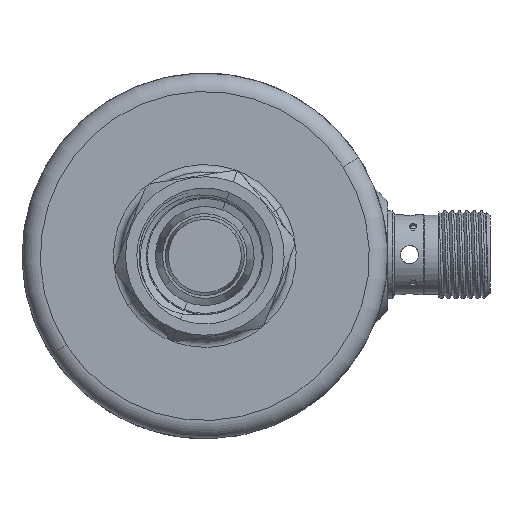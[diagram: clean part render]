
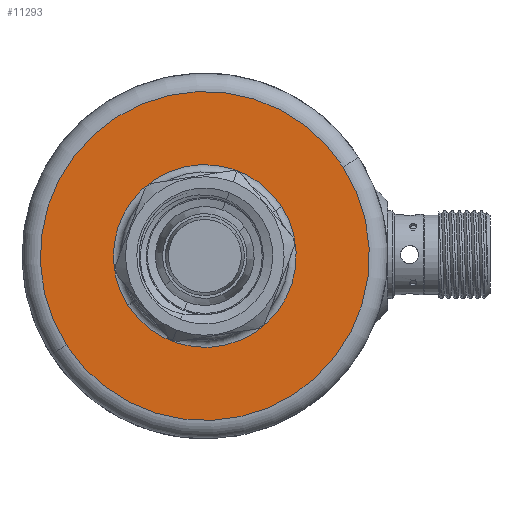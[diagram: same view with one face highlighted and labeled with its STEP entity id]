
A CAD part, front view. The second image highlights one B-rep face of the part: STEP entity #11293.
In plain terms, the highlighted planar face has unit normal (0, -1, 0) as drawn and (0, 0, -1) by its records, which use the part's own axes.
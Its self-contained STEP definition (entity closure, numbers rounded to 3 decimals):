
#196 = EDGE_LOOP ( 'NONE', ( #15688, #9535 ) ) ;
#1135 = DIRECTION ( 'NONE',  ( 0., 0., -1. ) ) ;
#1191 = DIRECTION ( 'NONE',  ( 0., 0., 1. ) ) ;
#1532 = DIRECTION ( 'NONE',  ( 1., 0., 0. ) ) ;
#1553 = VERTEX_POINT ( 'NONE', #13229 ) ;
#2788 = VERTEX_POINT ( 'NONE', #12636 ) ;
#3043 = CARTESIAN_POINT ( 'NONE',  ( -12.5, 0., 45.5 ) ) ;
#4055 = PLANE ( 'NONE',  #12773 ) ;
#4064 = AXIS2_PLACEMENT_3D ( 'NONE', #13502, #1191, #12160 ) ;
#4883 = EDGE_CURVE ( 'NONE', #2788, #1553, #14419, .T. ) ;
#5397 = FACE_OUTER_BOUND ( 'NONE', #196, .T. ) ;
#5885 = CIRCLE ( 'NONE', #8206, 12.5 ) ;
#6242 = VERTEX_POINT ( 'NONE', #10965 ) ;
#6570 = EDGE_LOOP ( 'NONE', ( #16739, #16388 ) ) ;
#6634 = DIRECTION ( 'NONE',  ( 1., 0., 0. ) ) ;
#6874 = EDGE_CURVE ( 'NONE', #6242, #15021, #5885, .T. ) ;
#8206 = AXIS2_PLACEMENT_3D ( 'NONE', #12680, #15542, #13040 ) ;
#8461 = DIRECTION ( 'NONE',  ( 0., 0., 1. ) ) ;
#8831 = CIRCLE ( 'NONE', #9381, 22.5 ) ;
#9355 = CARTESIAN_POINT ( 'NONE',  ( 0., 0., 45.5 ) ) ;
#9381 = AXIS2_PLACEMENT_3D ( 'NONE', #9355, #13486, #14823 ) ;
#9535 = ORIENTED_EDGE ( 'NONE', *, *, #4883, .T. ) ;
#10056 = EDGE_CURVE ( 'NONE', #1553, #2788, #8831, .T. ) ;
#10965 = CARTESIAN_POINT ( 'NONE',  ( 12.5, 0., 45.5 ) ) ;
#11293 = ADVANCED_FACE ( 'NONE', ( #11874, #5397 ), #4055, .F. ) ;
#11874 = FACE_BOUND ( 'NONE', #6570, .T. ) ;
#12021 = CARTESIAN_POINT ( 'NONE',  ( 0., 0., 45.5 ) ) ;
#12160 = DIRECTION ( 'NONE',  ( 1., 0., 0. ) ) ;
#12636 = CARTESIAN_POINT ( 'NONE',  ( -22.5, 0., 45.5 ) ) ;
#12680 = CARTESIAN_POINT ( 'NONE',  ( 0., 0., 45.5 ) ) ;
#12773 = AXIS2_PLACEMENT_3D ( 'NONE', #14997, #8461, #1532 ) ;
#13040 = DIRECTION ( 'NONE',  ( 1., 0., 0. ) ) ;
#13229 = CARTESIAN_POINT ( 'NONE',  ( 22.5, 0., 45.5 ) ) ;
#13486 = DIRECTION ( 'NONE',  ( 0., 0., -1. ) ) ;
#13502 = CARTESIAN_POINT ( 'NONE',  ( 0., 0., 45.5 ) ) ;
#14419 = CIRCLE ( 'NONE', #15276, 22.5 ) ;
#14823 = DIRECTION ( 'NONE',  ( 1., 0., 0. ) ) ;
#14997 = CARTESIAN_POINT ( 'NONE',  ( 0., 0., 45.5 ) ) ;
#15021 = VERTEX_POINT ( 'NONE', #3043 ) ;
#15276 = AXIS2_PLACEMENT_3D ( 'NONE', #12021, #1135, #6634 ) ;
#15489 = EDGE_CURVE ( 'NONE', #15021, #6242, #17236, .T. ) ;
#15542 = DIRECTION ( 'NONE',  ( 0., 0., 1. ) ) ;
#15688 = ORIENTED_EDGE ( 'NONE', *, *, #10056, .T. ) ;
#16388 = ORIENTED_EDGE ( 'NONE', *, *, #15489, .T. ) ;
#16739 = ORIENTED_EDGE ( 'NONE', *, *, #6874, .T. ) ;
#17236 = CIRCLE ( 'NONE', #4064, 12.5 ) ;
